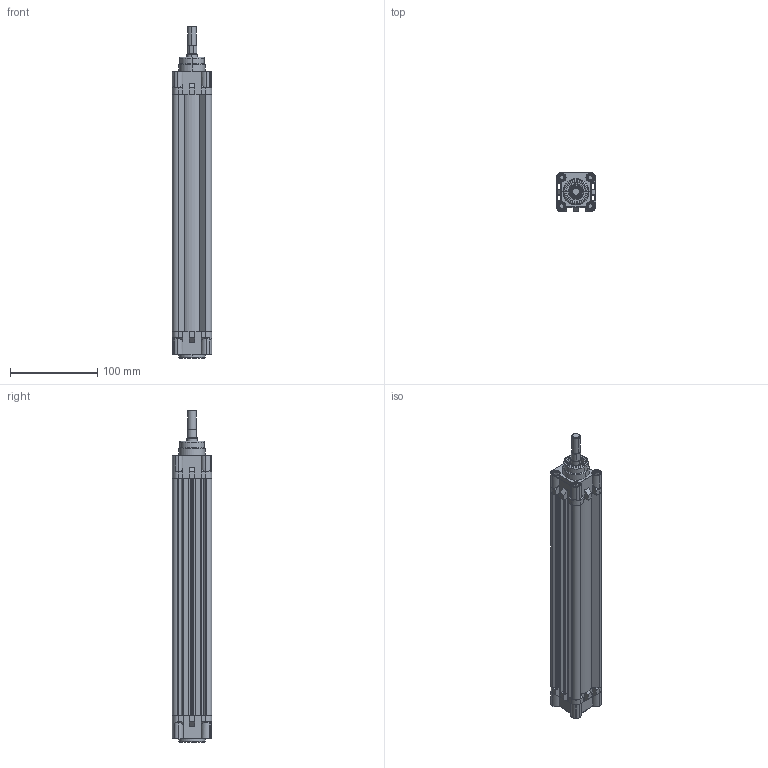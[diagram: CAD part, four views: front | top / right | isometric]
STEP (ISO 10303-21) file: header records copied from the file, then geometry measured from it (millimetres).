
FILE_DESCRIPTION (( 'STEP AP214' ), '1' );
FILE_NAME ('RIC_32_250_MY_WEB.STEP', '2020-07-18T17:19:07', ( '' ), ( '' ), 'SwSTEP 2.0', 'SolidWorks 2018', '' );
FILE_SCHEMA (( 'AUTOMOTIVE_DESIGN' ));
Length unit declared in the file: millimetre
Products named in the file (8): 32önkapak; 12_K_MIL_WEB_RIC32-25; 32arkakapak; RIC_32_250_MY_WEB; ric32bogazkecesi; 32_BORU_WEB; ric32kecemil; m6kapakcivatasi
Assembly tree (14 placements, depth 3):
  RIC_32_250_MY_WEB
    32_BORU_WEB
    32arkakapak
    32önkapak
    m6kapakcivatasi  x8
    ric32kecemil
      12_K_MIL_WEB_RIC32-25
    ric32bogazkecesi
Bounding box: 45 x 45.2 x 380.4 mm (x, y, z)
Volume: 310512.7 mm3; surface area: 166986.5 mm2
Topology: 13 solids, 13 shells, 783 faces, 1897 edges, 1206 vertices
Faces by surface type: plane 429, cylinder 194, cone 98, bspline 56, torus 6
Entity records: 22770 total; most frequent: CARTESIAN_POINT 6503, ORIENTED_EDGE 3010, DIRECTION 2881, EDGE_CURVE 1505, VERTEX_POINT 968, VECTOR 965, LINE 965, AXIS2_PLACEMENT_3D 958
